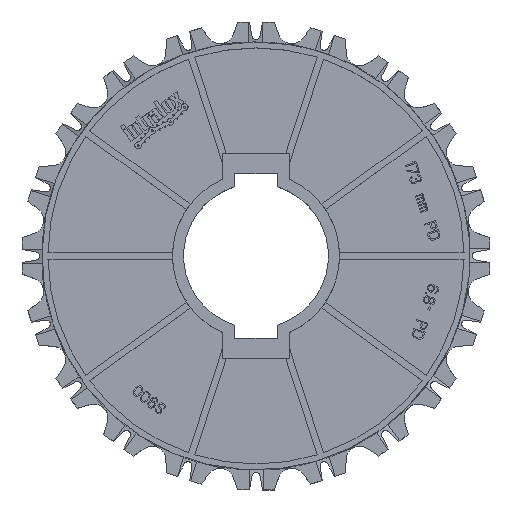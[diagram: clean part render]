
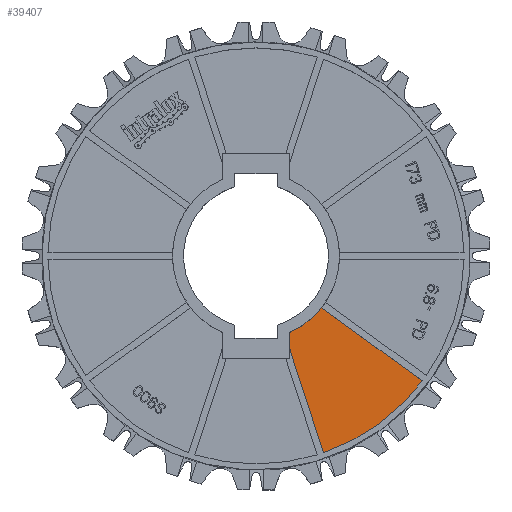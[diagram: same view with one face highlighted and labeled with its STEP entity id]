
A CAD part, top view. The second image highlights one B-rep face of the part: STEP entity #39407.
In plain terms, the highlighted planar face has unit normal (0, 0, 1).
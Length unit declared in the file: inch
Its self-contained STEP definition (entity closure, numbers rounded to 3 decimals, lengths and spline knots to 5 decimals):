
#13185=DIRECTION('',(0.,1.,0.));
#13186=VECTOR('',#13185,0.23139);
#13187=CARTESIAN_POINT('',(0.5,-1.37704,0.09));
#13188=LINE('',#13187,#13186);
#13189=CARTESIAN_POINT('',(0.,0.,0.09));
#13190=DIRECTION('',(0.,0.,1.));
#13191=DIRECTION('',(0.4,-0.917,0.));
#13192=AXIS2_PLACEMENT_3D('',#13189,#13190,#13191);
#13194=DIRECTION('',(-0.809,0.588,0.));
#13195=VECTOR('',#13194,1.8636);
#13196=CARTESIAN_POINT('',(2.48876,-1.86999,0.09));
#13197=LINE('',#13196,#13195);
#13198=CARTESIAN_POINT('',(0.,0.,0.09));
#13199=DIRECTION('',(0.,0.,1.));
#13200=DIRECTION('',(0.324,-0.946,0.));
#13201=AXIS2_PLACEMENT_3D('',#13198,#13199,#13200);
#13203=DIRECTION('',(0.309,-0.951,0.));
#13204=VECTOR('',#13203,1.64845);
#13205=CARTESIAN_POINT('',(0.5,-1.37704,0.09));
#13206=LINE('',#13205,#13204);
#20180=CARTESIAN_POINT('',(0.5,-1.14564,0.09));
#20181=VERTEX_POINT('',#20180);
#20672=CARTESIAN_POINT('',(1.0094,-2.94481,0.09));
#20673=CARTESIAN_POINT('',(2.48876,-1.86999,0.09));
#20674=VERTEX_POINT('',#20672);
#20675=VERTEX_POINT('',#20673);
#20748=CARTESIAN_POINT('',(0.5,-1.37704,0.09));
#20749=VERTEX_POINT('',#20748);
#20750=CARTESIAN_POINT('',(0.98107,-0.77459,0.09));
#20751=VERTEX_POINT('',#20750);
#39395=CARTESIAN_POINT('',(0.,0.,0.09));
#39396=DIRECTION('',(0.,0.,1.));
#39397=DIRECTION('',(-0.809,-0.588,0.));
#39398=AXIS2_PLACEMENT_3D('',#39395,#39396,#39397);
#39399=PLANE('',#39398);
#39400=ORIENTED_EDGE('',*,*,#24213,.T.);
#39401=ORIENTED_EDGE('',*,*,#24133,.T.);
#39402=ORIENTED_EDGE('',*,*,#24169,.F.);
#39403=ORIENTED_EDGE('',*,*,#24182,.F.);
#39404=ORIENTED_EDGE('',*,*,#24195,.F.);
#39405=EDGE_LOOP('',(#39400,#39401,#39402,#39403,#39404));
#39406=FACE_OUTER_BOUND('',#39405,.F.);
#39407=ADVANCED_FACE('',(#39406),#39399,.T.);
#13193=CIRCLE('',#13192,1.25);
#13202=CIRCLE('',#13201,3.113);
#24133=EDGE_CURVE('',#20181,#20751,#13193,.T.);
#24169=EDGE_CURVE('',#20675,#20751,#13197,.T.);
#24182=EDGE_CURVE('',#20674,#20675,#13202,.T.);
#24195=EDGE_CURVE('',#20749,#20674,#13206,.T.);
#24213=EDGE_CURVE('',#20749,#20181,#13188,.T.);
